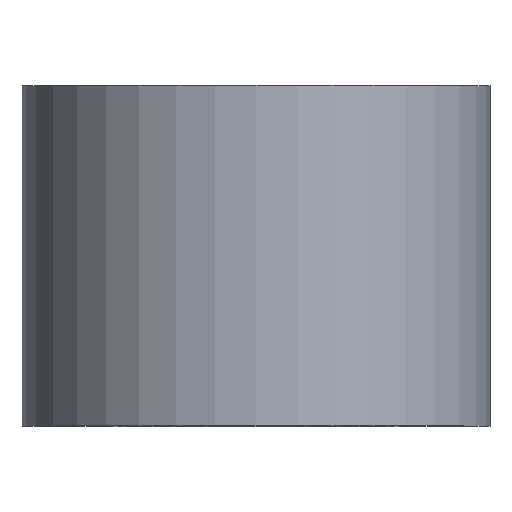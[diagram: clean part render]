
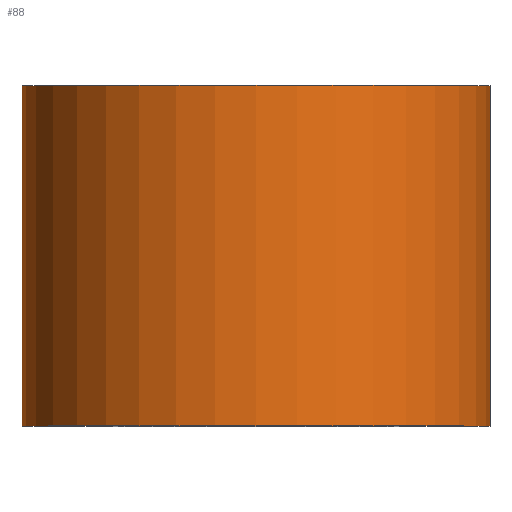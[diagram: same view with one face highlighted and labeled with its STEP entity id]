
A CAD part, top view. The second image highlights one B-rep face of the part: STEP entity #88.
In plain terms, the highlighted cylindrical face has radius 11 mm (diameter 22 mm), a partial arc.
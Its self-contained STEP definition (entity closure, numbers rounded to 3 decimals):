
#8 = VERTEX_POINT ( 'NONE', #168 ) ;
#20 = CARTESIAN_POINT ( 'NONE',  ( 0., 0., 0. ) ) ;
#27 = EDGE_CURVE ( 'NONE', #97, #215, #60, .T. ) ;
#30 = ORIENTED_EDGE ( 'NONE', *, *, #217, .F. ) ;
#32 = ORIENTED_EDGE ( 'NONE', *, *, #76, .F. ) ;
#46 = ORIENTED_EDGE ( 'NONE', *, *, #236, .T. ) ;
#50 = CIRCLE ( 'NONE', #122, 11. ) ;
#58 = LINE ( 'NONE', #181, #220 ) ;
#60 = CIRCLE ( 'NONE', #195, 11. ) ;
#66 = DIRECTION ( 'NONE',  ( 0., 1., 0. ) ) ;
#67 = CARTESIAN_POINT ( 'NONE',  ( 11., 16., 0. ) ) ;
#76 = EDGE_CURVE ( 'NONE', #8, #140, #50, .T. ) ;
#85 = DIRECTION ( 'NONE',  ( -1., 0., 0. ) ) ;
#88 = ADVANCED_FACE ( 'NONE', ( #116 ), #111, .T. ) ;
#97 = VERTEX_POINT ( 'NONE', #240 ) ;
#103 = DIRECTION ( 'NONE',  ( 0., 1., 0. ) ) ;
#111 = CYLINDRICAL_SURFACE ( 'NONE', #268, 11. ) ;
#114 = EDGE_LOOP ( 'NONE', ( #154, #46, #32, #30 ) ) ;
#116 = FACE_OUTER_BOUND ( 'NONE', #114, .T. ) ;
#122 = AXIS2_PLACEMENT_3D ( 'NONE', #144, #103, #238 ) ;
#140 = VERTEX_POINT ( 'NONE', #67 ) ;
#144 = CARTESIAN_POINT ( 'NONE',  ( 0., 16., 0. ) ) ;
#149 = DIRECTION ( 'NONE',  ( -1., 0., 0. ) ) ;
#153 = DIRECTION ( 'NONE',  ( 0., 1., 0. ) ) ;
#154 = ORIENTED_EDGE ( 'NONE', *, *, #27, .T. ) ;
#168 = CARTESIAN_POINT ( 'NONE',  ( -11., 16., 0. ) ) ;
#173 = CARTESIAN_POINT ( 'NONE',  ( -11., 0., 0. ) ) ;
#181 = CARTESIAN_POINT ( 'NONE',  ( 11., 0., 0. ) ) ;
#190 = CARTESIAN_POINT ( 'NONE',  ( 11., 0., 0. ) ) ;
#195 = AXIS2_PLACEMENT_3D ( 'NONE', #20, #66, #85 ) ;
#215 = VERTEX_POINT ( 'NONE', #190 ) ;
#216 = DIRECTION ( 'NONE',  ( 0., 1., 0. ) ) ;
#217 = EDGE_CURVE ( 'NONE', #97, #8, #228, .T. ) ;
#220 = VECTOR ( 'NONE', #153, 1000. ) ;
#228 = LINE ( 'NONE', #173, #289 ) ;
#236 = EDGE_CURVE ( 'NONE', #215, #140, #58, .T. ) ;
#238 = DIRECTION ( 'NONE',  ( -1., 0., 0. ) ) ;
#240 = CARTESIAN_POINT ( 'NONE',  ( -11., 0., 0. ) ) ;
#268 = AXIS2_PLACEMENT_3D ( 'NONE', #297, #296, #149 ) ;
#289 = VECTOR ( 'NONE', #216, 1000. ) ;
#296 = DIRECTION ( 'NONE',  ( 0., 1., 0. ) ) ;
#297 = CARTESIAN_POINT ( 'NONE',  ( 0., 0., 0. ) ) ;
